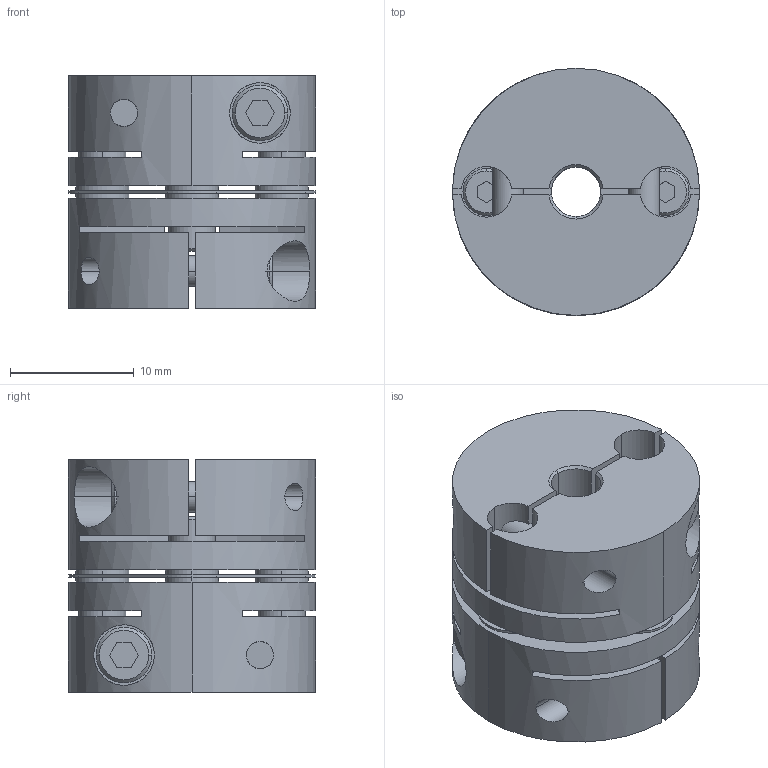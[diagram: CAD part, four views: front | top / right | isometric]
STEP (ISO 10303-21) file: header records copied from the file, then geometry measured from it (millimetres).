
FILE_DESCRIPTION((''),'2;1');
FILE_NAME('LAS-20C-4×5.stp','2011-08-10T08:51:39',(''),(''),'AutoCAD STEP 2000i','AutoCAD 2000i',', , ');
FILE_SCHEMA(('CONFIG_CONTROL_DESIGN'));
Length unit declared in the file: millimetre
Products named in the file (5): LAS-20C-4×4; 忣兜1; LA-2002-D04-1; LA-2002-D04; LAS20-ITA
Assembly tree (4 placements, depth 2):
  LAS-20C-4×4
    忣兜1
    LA-2002-D04-1
    LA-2002-D04
    LAS20-ITA
Bounding box: 20 x 20 x 18.8 mm (x, y, z)
Volume: 4710.3 mm3; surface area: 4577.1 mm2
Topology: 1 solids, 1 shells, 236 faces, 624 edges, 408 vertices
Faces by surface type: plane 112, cylinder 96, cone 28
Entity records: 8203 total; most frequent: CARTESIAN_POINT 2009, DIRECTION 1302, ORIENTED_EDGE 1248, EDGE_CURVE 624, AXIS2_PLACEMENT_3D 477, VERTEX_POINT 408, VECTOR 348, LINE 348
